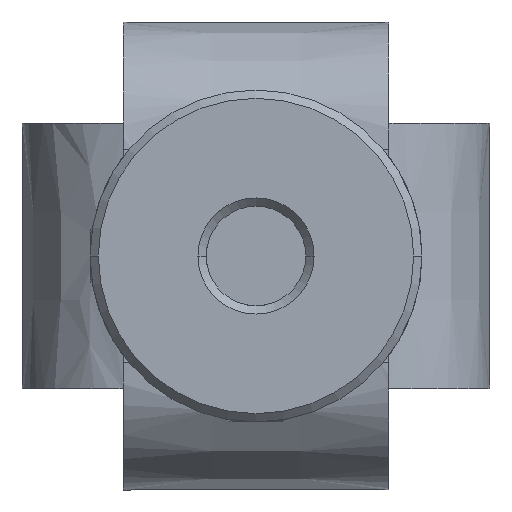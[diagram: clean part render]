
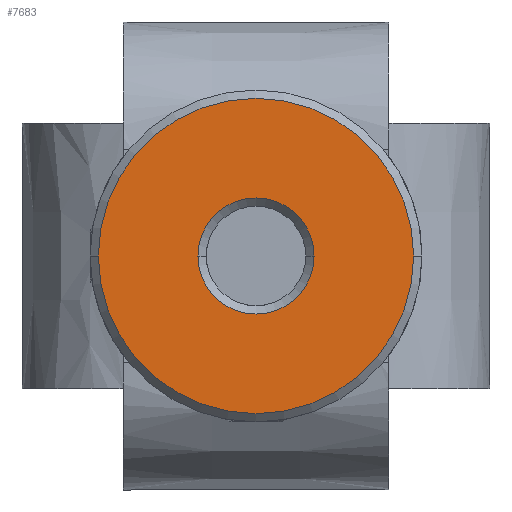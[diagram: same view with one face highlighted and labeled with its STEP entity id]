
A CAD part, front view. The second image highlights one B-rep face of the part: STEP entity #7683.
In plain terms, the highlighted planar face has unit normal (0, -1, 0).
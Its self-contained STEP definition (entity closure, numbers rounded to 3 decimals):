
#229 = DIRECTION ( 'NONE',  ( 0., -1., 0. ) ) ;
#753 = CARTESIAN_POINT ( 'NONE',  ( -9.5, -35.24, 0. ) ) ;
#809 = CARTESIAN_POINT ( 'NONE',  ( 9.5, -35.24, 0. ) ) ;
#903 = EDGE_CURVE ( 'NONE', #7199, #2412, #3623, .T. ) ;
#1219 = AXIS2_PLACEMENT_3D ( 'NONE', #6673, #7290, #6105 ) ;
#1256 = CARTESIAN_POINT ( 'NONE',  ( 0., -35.24, 0. ) ) ;
#1682 = ORIENTED_EDGE ( 'NONE', *, *, #2961, .T. ) ;
#1930 = FACE_OUTER_BOUND ( 'NONE', #7289, .T. ) ;
#1997 = CARTESIAN_POINT ( 'NONE',  ( 0., -35.24, 0. ) ) ;
#2014 = AXIS2_PLACEMENT_3D ( 'NONE', #1256, #2372, #4156 ) ;
#2097 = ORIENTED_EDGE ( 'NONE', *, *, #903, .T. ) ;
#2372 = DIRECTION ( 'NONE',  ( 0., 1., 0. ) ) ;
#2412 = VERTEX_POINT ( 'NONE', #809 ) ;
#2485 = CARTESIAN_POINT ( 'NONE',  ( -3.5, -35.24, 0. ) ) ;
#2675 = DIRECTION ( 'NONE',  ( 0., -1., 0. ) ) ;
#2961 = EDGE_CURVE ( 'NONE', #6184, #3545, #7007, .T. ) ;
#3193 = CARTESIAN_POINT ( 'NONE',  ( 0., -35.24, 0. ) ) ;
#3309 = AXIS2_PLACEMENT_3D ( 'NONE', #1997, #2675, #4332 ) ;
#3545 = VERTEX_POINT ( 'NONE', #6840 ) ;
#3623 = CIRCLE ( 'NONE', #1219, 9.5 ) ;
#3780 = PLANE ( 'NONE',  #6127 ) ;
#3913 = DIRECTION ( 'NONE',  ( -1., 0., 0. ) ) ;
#3986 = DIRECTION ( 'NONE',  ( 0., 1., 0. ) ) ;
#4156 = DIRECTION ( 'NONE',  ( -1., 0., 0. ) ) ;
#4158 = FACE_BOUND ( 'NONE', #6469, .T. ) ;
#4332 = DIRECTION ( 'NONE',  ( -1., 0., 0. ) ) ;
#4690 = ORIENTED_EDGE ( 'NONE', *, *, #7670, .T. ) ;
#4844 = CIRCLE ( 'NONE', #2014, 3.5 ) ;
#5504 = ORIENTED_EDGE ( 'NONE', *, *, #6189, .T. ) ;
#5577 = AXIS2_PLACEMENT_3D ( 'NONE', #7577, #3986, #3913 ) ;
#5641 = DIRECTION ( 'NONE',  ( -1., 0., 0. ) ) ;
#6105 = DIRECTION ( 'NONE',  ( -1., 0., 0. ) ) ;
#6127 = AXIS2_PLACEMENT_3D ( 'NONE', #3193, #229, #5641 ) ;
#6184 = VERTEX_POINT ( 'NONE', #2485 ) ;
#6189 = EDGE_CURVE ( 'NONE', #3545, #6184, #4844, .T. ) ;
#6469 = EDGE_LOOP ( 'NONE', ( #1682, #5504 ) ) ;
#6509 = CIRCLE ( 'NONE', #3309, 9.5 ) ;
#6673 = CARTESIAN_POINT ( 'NONE',  ( 0., -35.24, 0. ) ) ;
#6840 = CARTESIAN_POINT ( 'NONE',  ( 3.5, -35.24, 0. ) ) ;
#7007 = CIRCLE ( 'NONE', #5577, 3.5 ) ;
#7199 = VERTEX_POINT ( 'NONE', #753 ) ;
#7289 = EDGE_LOOP ( 'NONE', ( #4690, #2097 ) ) ;
#7290 = DIRECTION ( 'NONE',  ( 0., -1., 0. ) ) ;
#7577 = CARTESIAN_POINT ( 'NONE',  ( 0., -35.24, 0. ) ) ;
#7670 = EDGE_CURVE ( 'NONE', #2412, #7199, #6509, .T. ) ;
#7683 = ADVANCED_FACE ( 'NONE', ( #4158, #1930 ), #3780, .T. ) ;
